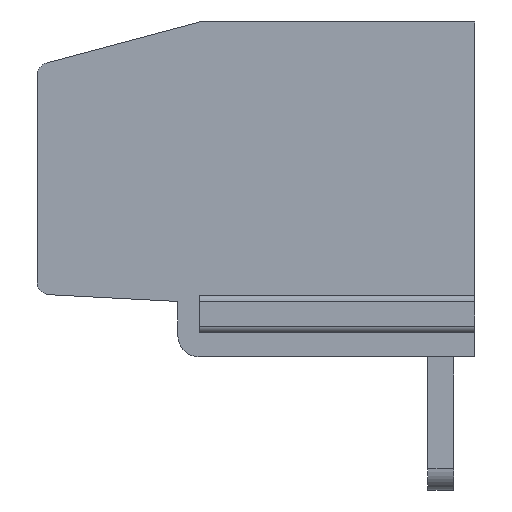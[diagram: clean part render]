
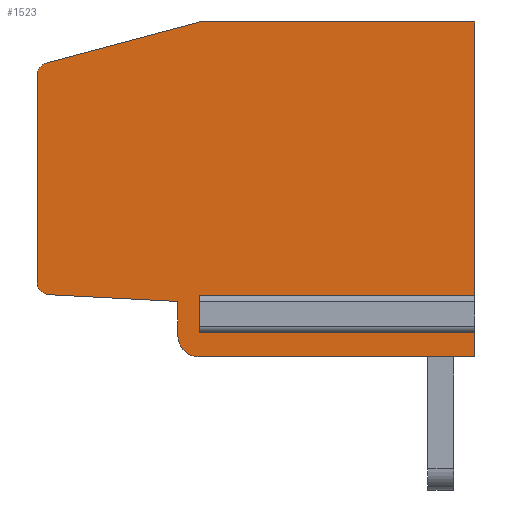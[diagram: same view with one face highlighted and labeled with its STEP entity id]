
A CAD part, left-side view. The second image highlights one B-rep face of the part: STEP entity #1523.
In plain terms, the highlighted planar face has unit normal (-1, 0, 0).
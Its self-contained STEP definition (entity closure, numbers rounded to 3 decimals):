
#78 = CARTESIAN_POINT ( 'NONE',  ( 0., 6.41, 7.8 ) ) ;
#154 = ORIENTED_EDGE ( 'NONE', *, *, #5530, .F. ) ;
#224 = EDGE_CURVE ( 'NONE', #5091, #4910, #2171, .T. ) ;
#245 = LINE ( 'NONE', #3609, #1653 ) ;
#269 = CARTESIAN_POINT ( 'NONE',  ( 0., 6.41, 1.3 ) ) ;
#378 = CARTESIAN_POINT ( 'NONE',  ( 0., 6.92, 1.291 ) ) ;
#415 = EDGE_CURVE ( 'NONE', #908, #3400, #823, .T. ) ;
#417 = VERTEX_POINT ( 'NONE', #1152 ) ;
#479 = CARTESIAN_POINT ( 'NONE',  ( 0., 0., 1.3 ) ) ;
#539 = DIRECTION ( 'NONE',  ( 0., 0., -1. ) ) ;
#578 = DIRECTION ( 'NONE',  ( 0., 1., 0. ) ) ;
#669 = CIRCLE ( 'NONE', #2827, 0.5 ) ;
#699 = CARTESIAN_POINT ( 'NONE',  ( 0., 6.92, 1.291 ) ) ;
#721 = LINE ( 'NONE', #5105, #4280 ) ;
#726 = CARTESIAN_POINT ( 'NONE',  ( 0., 0., 0.7 ) ) ;
#823 = LINE ( 'NONE', #378, #3295 ) ;
#858 = LINE ( 'NONE', #1725, #2351 ) ;
#908 = VERTEX_POINT ( 'NONE', #699 ) ;
#944 = CARTESIAN_POINT ( 'NONE',  ( 0., 0., 7.8 ) ) ;
#1000 = CARTESIAN_POINT ( 'NONE',  ( 0., 6.92, 0.5 ) ) ;
#1017 = EDGE_CURVE ( 'NONE', #4910, #2033, #669, .T. ) ;
#1026 = LINE ( 'NONE', #1478, #5346 ) ;
#1029 = CARTESIAN_POINT ( 'NONE',  ( 0., 10.2, 1.748 ) ) ;
#1030 = CARTESIAN_POINT ( 'NONE',  ( 0., 9.9, 6.554 ) ) ;
#1152 = CARTESIAN_POINT ( 'NONE',  ( 0., 6.41, 0.7 ) ) ;
#1174 = ORIENTED_EDGE ( 'NONE', *, *, #5029, .T. ) ;
#1190 = EDGE_CURVE ( 'NONE', #3305, #5536, #4383, .T. ) ;
#1277 = LINE ( 'NONE', #3749, #1682 ) ;
#1323 = ORIENTED_EDGE ( 'NONE', *, *, #2330, .F. ) ;
#1408 = CARTESIAN_POINT ( 'NONE',  ( 0., 10.2, 6.554 ) ) ;
#1420 = CARTESIAN_POINT ( 'NONE',  ( 0., 0., 0. ) ) ;
#1430 = DIRECTION ( 'NONE',  ( 0., 1., 0. ) ) ;
#1435 = EDGE_CURVE ( 'NONE', #5536, #1984, #4295, .T. ) ;
#1478 = CARTESIAN_POINT ( 'NONE',  ( 0., 6.41, 7.8 ) ) ;
#1481 = LINE ( 'NONE', #1509, #2489 ) ;
#1509 = CARTESIAN_POINT ( 'NONE',  ( 0., 6.41, 0.7 ) ) ;
#1523 = ADVANCED_FACE ( 'NONE', ( #4585 ), #3828, .F. ) ;
#1632 = CARTESIAN_POINT ( 'NONE',  ( 0., 0., 0. ) ) ;
#1653 = VECTOR ( 'NONE', #2328, 1000. ) ;
#1682 = VECTOR ( 'NONE', #4701, 1000. ) ;
#1725 = CARTESIAN_POINT ( 'NONE',  ( 0., 0., 7.8 ) ) ;
#1804 = ORIENTED_EDGE ( 'NONE', *, *, #1435, .F. ) ;
#1856 = CARTESIAN_POINT ( 'NONE',  ( 0., 9.916, 1.448 ) ) ;
#1928 = DIRECTION ( 'NONE',  ( 0., -1., 0. ) ) ;
#1984 = VERTEX_POINT ( 'NONE', #78 ) ;
#2033 = VERTEX_POINT ( 'NONE', #1000 ) ;
#2060 = DIRECTION ( 'NONE',  ( 0., 1., 0. ) ) ;
#2118 = VECTOR ( 'NONE', #2287, 1000. ) ;
#2152 = EDGE_CURVE ( 'NONE', #417, #3464, #1481, .T. ) ;
#2171 = LINE ( 'NONE', #1420, #2118 ) ;
#2184 = CARTESIAN_POINT ( 'NONE',  ( 0., 9.978, 6.844 ) ) ;
#2207 = ORIENTED_EDGE ( 'NONE', *, *, #2833, .F. ) ;
#2287 = DIRECTION ( 'NONE',  ( 0., 1., 0. ) ) ;
#2328 = DIRECTION ( 'NONE',  ( 0., 0., 1. ) ) ;
#2330 = EDGE_CURVE ( 'NONE', #2033, #908, #1277, .T. ) ;
#2351 = VECTOR ( 'NONE', #4419, 1000. ) ;
#2371 = CARTESIAN_POINT ( 'NONE',  ( 0., 9.9, 1.748 ) ) ;
#2455 = VERTEX_POINT ( 'NONE', #944 ) ;
#2489 = VECTOR ( 'NONE', #4507, 1000. ) ;
#2490 = ORIENTED_EDGE ( 'NONE', *, *, #415, .F. ) ;
#2558 = DIRECTION ( 'NONE',  ( 0., 0., -1. ) ) ;
#2561 = VECTOR ( 'NONE', #578, 1000. ) ;
#2724 = LINE ( 'NONE', #479, #2920 ) ;
#2827 = AXIS2_PLACEMENT_3D ( 'NONE', #4769, #3879, #539 ) ;
#2833 = EDGE_CURVE ( 'NONE', #3400, #3503, #3260, .T. ) ;
#2841 = LINE ( 'NONE', #726, #2561 ) ;
#2855 = ORIENTED_EDGE ( 'NONE', *, *, #4391, .F. ) ;
#2920 = VECTOR ( 'NONE', #4462, 1000. ) ;
#2956 = EDGE_CURVE ( 'NONE', #2455, #3848, #858, .T. ) ;
#2989 = DIRECTION ( 'NONE',  ( 0., 0.999, 0.052 ) ) ;
#3080 = VERTEX_POINT ( 'NONE', #5333 ) ;
#3145 = DIRECTION ( 'NONE',  ( 0., 0.052, -0.999 ) ) ;
#3169 = ORIENTED_EDGE ( 'NONE', *, *, #4514, .F. ) ;
#3201 = CARTESIAN_POINT ( 'NONE',  ( 0., 0., 1.3 ) ) ;
#3260 = CIRCLE ( 'NONE', #4002, 0.3 ) ;
#3295 = VECTOR ( 'NONE', #2989, 1000. ) ;
#3305 = VERTEX_POINT ( 'NONE', #1408 ) ;
#3400 = VERTEX_POINT ( 'NONE', #1856 ) ;
#3464 = VERTEX_POINT ( 'NONE', #269 ) ;
#3503 = VERTEX_POINT ( 'NONE', #1029 ) ;
#3535 = ORIENTED_EDGE ( 'NONE', *, *, #2956, .F. ) ;
#3609 = CARTESIAN_POINT ( 'NONE',  ( 0., 10.2, 1.748 ) ) ;
#3707 = DIRECTION ( 'NONE',  ( 1., 0., 0. ) ) ;
#3749 = CARTESIAN_POINT ( 'NONE',  ( 0., 6.92, 0.5 ) ) ;
#3828 = PLANE ( 'NONE',  #4655 ) ;
#3848 = VERTEX_POINT ( 'NONE', #3201 ) ;
#3866 = CARTESIAN_POINT ( 'NONE',  ( 0., 6.42, 0. ) ) ;
#3879 = DIRECTION ( 'NONE',  ( 1., 0., 0. ) ) ;
#3907 = ORIENTED_EDGE ( 'NONE', *, *, #2152, .T. ) ;
#4002 = AXIS2_PLACEMENT_3D ( 'NONE', #2371, #3707, #3145 ) ;
#4053 = EDGE_LOOP ( 'NONE', ( #3535, #4101, #1804, #4215, #2855, #2207, #2490, #1323, #4364, #5390, #3169, #1174, #3907, #154 ) ) ;
#4101 = ORIENTED_EDGE ( 'NONE', *, *, #4720, .F. ) ;
#4215 = ORIENTED_EDGE ( 'NONE', *, *, #1190, .F. ) ;
#4280 = VECTOR ( 'NONE', #2558, 1000. ) ;
#4295 = LINE ( 'NONE', #5211, #4559 ) ;
#4344 = DIRECTION ( 'NONE',  ( 0., -0.966, 0.259 ) ) ;
#4364 = ORIENTED_EDGE ( 'NONE', *, *, #1017, .F. ) ;
#4383 = CIRCLE ( 'NONE', #4475, 0.3 ) ;
#4391 = EDGE_CURVE ( 'NONE', #3503, #3305, #245, .T. ) ;
#4419 = DIRECTION ( 'NONE',  ( 0., 0., -1. ) ) ;
#4462 = DIRECTION ( 'NONE',  ( 0., 1., 0. ) ) ;
#4475 = AXIS2_PLACEMENT_3D ( 'NONE', #1030, #5301, #1430 ) ;
#4507 = DIRECTION ( 'NONE',  ( 0., 0., 1. ) ) ;
#4514 = EDGE_CURVE ( 'NONE', #3080, #5091, #721, .T. ) ;
#4559 = VECTOR ( 'NONE', #4344, 1000. ) ;
#4585 = FACE_OUTER_BOUND ( 'NONE', #4053, .T. ) ;
#4642 = CARTESIAN_POINT ( 'NONE',  ( 0., 0., 0. ) ) ;
#4655 = AXIS2_PLACEMENT_3D ( 'NONE', #4642, #5483, #2060 ) ;
#4701 = DIRECTION ( 'NONE',  ( 0., 0., 1. ) ) ;
#4720 = EDGE_CURVE ( 'NONE', #1984, #2455, #1026, .T. ) ;
#4769 = CARTESIAN_POINT ( 'NONE',  ( 0., 6.42, 0.5 ) ) ;
#4910 = VERTEX_POINT ( 'NONE', #3866 ) ;
#5029 = EDGE_CURVE ( 'NONE', #3080, #417, #2841, .T. ) ;
#5091 = VERTEX_POINT ( 'NONE', #1632 ) ;
#5105 = CARTESIAN_POINT ( 'NONE',  ( 0., 0., 0.7 ) ) ;
#5211 = CARTESIAN_POINT ( 'NONE',  ( 0., 9.978, 6.844 ) ) ;
#5301 = DIRECTION ( 'NONE',  ( 1., 0., 0. ) ) ;
#5333 = CARTESIAN_POINT ( 'NONE',  ( 0., 0., 0.7 ) ) ;
#5346 = VECTOR ( 'NONE', #1928, 1000. ) ;
#5390 = ORIENTED_EDGE ( 'NONE', *, *, #224, .F. ) ;
#5483 = DIRECTION ( 'NONE',  ( 1., 0., 0. ) ) ;
#5530 = EDGE_CURVE ( 'NONE', #3848, #3464, #2724, .T. ) ;
#5536 = VERTEX_POINT ( 'NONE', #2184 ) ;
